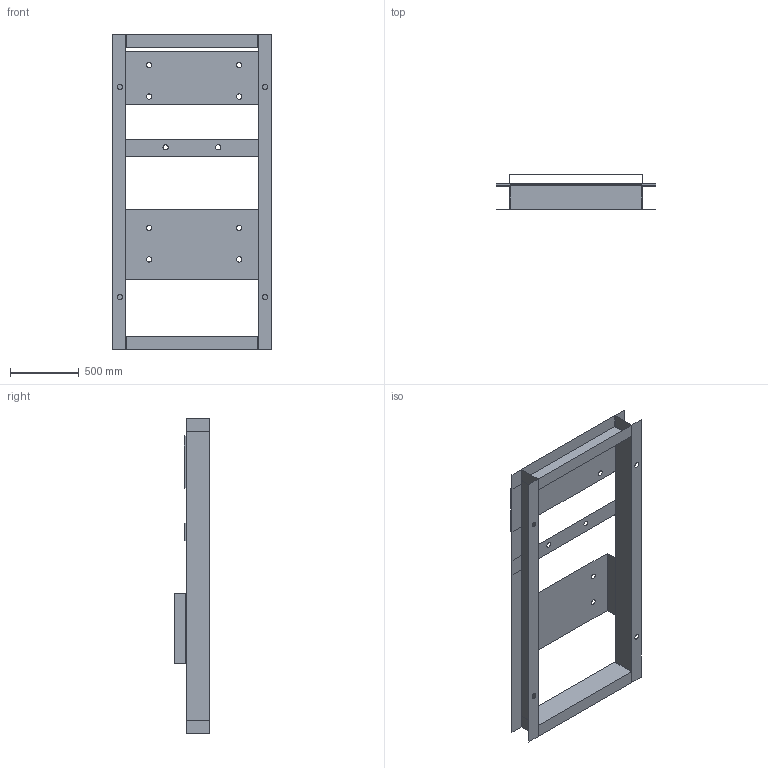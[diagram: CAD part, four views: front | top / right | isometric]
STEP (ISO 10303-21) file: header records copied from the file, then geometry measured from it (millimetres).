
FILE_DESCRIPTION(('STEP AP214'),'1');
FILE_NAME('Centrifugal Pump Base Frame.stp','2020-08-31T16:24:44',(' '),(' '),'Spatial InterOp 3D',' ',' ');
FILE_SCHEMA(('AUTOMOTIVE_DESIGN { 1 0 10303 214 1 1 1 1 }'));
Length unit declared in the file: metre
Products named in the file (1): Surface Body
Bounding box: 1154.1 x 257.18 x 2286 mm (x, y, z)
Surface area: 3539813.7 mm2 (no closed solid volume)
Topology: 0 solids, 23 shells, 43 faces, 180 edges, 160 vertices
Faces by surface type: plane 43
Entity records: 2301 total; most frequent: CARTESIAN_POINT 518, DIRECTION 332, ORIENTED_EDGE 200, EDGE_CURVE 180, VERTEX_POINT 160, LINE 144, VECTOR 144, AXIS2_PLACEMENT_3D 94
